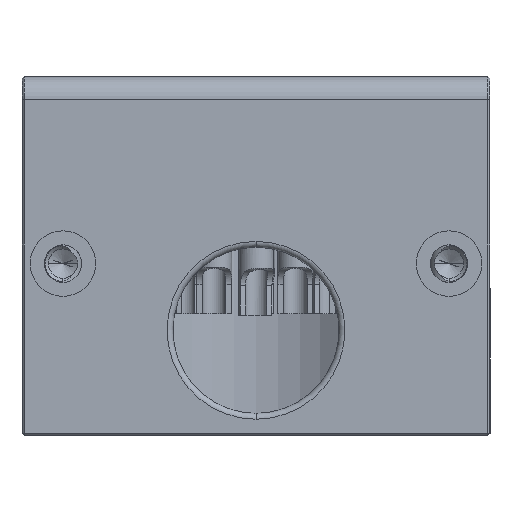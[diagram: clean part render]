
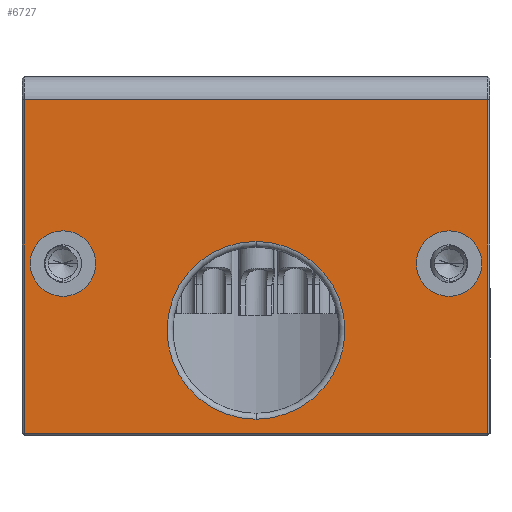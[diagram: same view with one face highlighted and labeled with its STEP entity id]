
A CAD part, front view. The second image highlights one B-rep face of the part: STEP entity #6727.
In plain terms, the highlighted planar face has unit normal (0, -1, 0).
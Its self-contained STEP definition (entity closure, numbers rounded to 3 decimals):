
#142 = VECTOR ( 'NONE', #6119, 1000. ) ;
#332 = CARTESIAN_POINT ( 'NONE',  ( 29.882, -22.127, -16.3 ) ) ;
#387 = CARTESIAN_POINT ( 'NONE',  ( 13.382, -22.127, -22. ) ) ;
#388 = DIRECTION ( 'NONE',  ( 0., 1., 0. ) ) ;
#394 = CIRCLE ( 'NONE', #2444, 2.8 ) ;
#399 = EDGE_LOOP ( 'NONE', ( #7267, #6296 ) ) ;
#403 = DIRECTION ( 'NONE',  ( 0., 0., 1. ) ) ;
#561 = PLANE ( 'NONE',  #4365 ) ;
#709 = FACE_OUTER_BOUND ( 'NONE', #2448, .T. ) ;
#727 = CARTESIAN_POINT ( 'NONE',  ( -6.418, -22.127, -30.8 ) ) ;
#738 = DIRECTION ( 'NONE',  ( 0., -1., 0. ) ) ;
#766 = DIRECTION ( 'NONE',  ( 1., 0., 0. ) ) ;
#845 = CARTESIAN_POINT ( 'NONE',  ( -3.118, -22.127, -13.5 ) ) ;
#1048 = AXIS2_PLACEMENT_3D ( 'NONE', #387, #388, #403 ) ;
#1348 = DIRECTION ( 'NONE',  ( 0., 0., -1. ) ) ;
#1844 = CARTESIAN_POINT ( 'NONE',  ( 29.882, -22.127, -19.1 ) ) ;
#2125 = AXIS2_PLACEMENT_3D ( 'NONE', #9798, #9810, #9826 ) ;
#2188 = ORIENTED_EDGE ( 'NONE', *, *, #6693, .T. ) ;
#2243 = VERTEX_POINT ( 'NONE', #845 ) ;
#2259 = VECTOR ( 'NONE', #5566, 1000. ) ;
#2444 = AXIS2_PLACEMENT_3D ( 'NONE', #8079, #7739, #9248 ) ;
#2448 = EDGE_LOOP ( 'NONE', ( #11595, #5131, #4684, #10563 ) ) ;
#2573 = LINE ( 'NONE', #5391, #2259 ) ;
#2663 = VECTOR ( 'NONE', #3962, 1000. ) ;
#2738 = FACE_BOUND ( 'NONE', #9061, .T. ) ;
#2802 = LINE ( 'NONE', #6259, #142 ) ;
#3197 = DIRECTION ( 'NONE',  ( 0., 1., 0. ) ) ;
#3243 = VERTEX_POINT ( 'NONE', #9236 ) ;
#3272 = CARTESIAN_POINT ( 'NONE',  ( -3.118, -22.127, -16.3 ) ) ;
#3326 = CARTESIAN_POINT ( 'NONE',  ( 13.382, -22.127, -14.4 ) ) ;
#3363 = CARTESIAN_POINT ( 'NONE',  ( 29.882, -22.127, -13.5 ) ) ;
#3690 = EDGE_CURVE ( 'NONE', #2243, #4925, #9005, .T. ) ;
#3962 = DIRECTION ( 'NONE',  ( 0., 0., -1. ) ) ;
#4088 = EDGE_LOOP ( 'NONE', ( #7550, #9944 ) ) ;
#4221 = EDGE_CURVE ( 'NONE', #8075, #3243, #4604, .T. ) ;
#4365 = AXIS2_PLACEMENT_3D ( 'NONE', #727, #738, #766 ) ;
#4444 = EDGE_CURVE ( 'NONE', #11777, #5824, #2802, .T. ) ;
#4604 = LINE ( 'NONE', #4853, #2663 ) ;
#4684 = ORIENTED_EDGE ( 'NONE', *, *, #9101, .F. ) ;
#4765 = EDGE_CURVE ( 'NONE', #6823, #11536, #9769, .T. ) ;
#4853 = CARTESIAN_POINT ( 'NONE',  ( -6.418, -22.127, -16.55 ) ) ;
#4925 = VERTEX_POINT ( 'NONE', #11977 ) ;
#5131 = ORIENTED_EDGE ( 'NONE', *, *, #4444, .T. ) ;
#5142 = CARTESIAN_POINT ( 'NONE',  ( 33.182, -22.127, -30.8 ) ) ;
#5207 = ORIENTED_EDGE ( 'NONE', *, *, #3690, .T. ) ;
#5307 = FACE_BOUND ( 'NONE', #399, .T. ) ;
#5391 = CARTESIAN_POINT ( 'NONE',  ( 13.382, -22.127, -2.3 ) ) ;
#5566 = DIRECTION ( 'NONE',  ( 1., 0., 0. ) ) ;
#5568 = LINE ( 'NONE', #8596, #9822 ) ;
#5597 = FACE_BOUND ( 'NONE', #4088, .T. ) ;
#5824 = VERTEX_POINT ( 'NONE', #9589 ) ;
#6119 = DIRECTION ( 'NONE',  ( 0., 0., 1. ) ) ;
#6194 = VERTEX_POINT ( 'NONE', #3326 ) ;
#6259 = CARTESIAN_POINT ( 'NONE',  ( 33.182, -22.127, -16.55 ) ) ;
#6296 = ORIENTED_EDGE ( 'NONE', *, *, #11064, .T. ) ;
#6511 = VERTEX_POINT ( 'NONE', #10486 ) ;
#6693 = EDGE_CURVE ( 'NONE', #4925, #2243, #394, .T. ) ;
#6727 = ADVANCED_FACE ( 'NONE', ( #709, #5307, #5597, #2738 ), #561, .T. ) ;
#6755 = AXIS2_PLACEMENT_3D ( 'NONE', #332, #9308, #10705 ) ;
#6823 = VERTEX_POINT ( 'NONE', #1844 ) ;
#7074 = AXIS2_PLACEMENT_3D ( 'NONE', #3272, #3197, #1348 ) ;
#7267 = ORIENTED_EDGE ( 'NONE', *, *, #9415, .T. ) ;
#7550 = ORIENTED_EDGE ( 'NONE', *, *, #4765, .T. ) ;
#7739 = DIRECTION ( 'NONE',  ( 0., 1., 0. ) ) ;
#7860 = CARTESIAN_POINT ( 'NONE',  ( -6.418, -22.127, -2.3 ) ) ;
#8075 = VERTEX_POINT ( 'NONE', #7860 ) ;
#8079 = CARTESIAN_POINT ( 'NONE',  ( -3.118, -22.127, -16.3 ) ) ;
#8596 = CARTESIAN_POINT ( 'NONE',  ( 13.382, -22.127, -30.8 ) ) ;
#8771 = DIRECTION ( 'NONE',  ( 1., 0., 0. ) ) ;
#9005 = CIRCLE ( 'NONE', #7074, 2.8 ) ;
#9040 = CIRCLE ( 'NONE', #2125, 2.8 ) ;
#9061 = EDGE_LOOP ( 'NONE', ( #2188, #5207 ) ) ;
#9101 = EDGE_CURVE ( 'NONE', #8075, #5824, #2573, .T. ) ;
#9236 = CARTESIAN_POINT ( 'NONE',  ( -6.418, -22.127, -30.8 ) ) ;
#9248 = DIRECTION ( 'NONE',  ( 0., 0., -1. ) ) ;
#9295 = CARTESIAN_POINT ( 'NONE',  ( 13.382, -22.127, -22. ) ) ;
#9306 = DIRECTION ( 'NONE',  ( 0., 1., 0. ) ) ;
#9308 = DIRECTION ( 'NONE',  ( 0., 1., 0. ) ) ;
#9327 = DIRECTION ( 'NONE',  ( 0., 0., 1. ) ) ;
#9365 = EDGE_CURVE ( 'NONE', #3243, #11777, #5568, .T. ) ;
#9415 = EDGE_CURVE ( 'NONE', #6194, #6511, #9564, .T. ) ;
#9451 = EDGE_CURVE ( 'NONE', #11536, #6823, #9040, .T. ) ;
#9564 = CIRCLE ( 'NONE', #11569, 7.6 ) ;
#9589 = CARTESIAN_POINT ( 'NONE',  ( 33.182, -22.127, -2.3 ) ) ;
#9769 = CIRCLE ( 'NONE', #6755, 2.8 ) ;
#9798 = CARTESIAN_POINT ( 'NONE',  ( 29.882, -22.127, -16.3 ) ) ;
#9810 = DIRECTION ( 'NONE',  ( 0., 1., 0. ) ) ;
#9822 = VECTOR ( 'NONE', #8771, 1000. ) ;
#9826 = DIRECTION ( 'NONE',  ( 0., 0., -1. ) ) ;
#9944 = ORIENTED_EDGE ( 'NONE', *, *, #9451, .T. ) ;
#10486 = CARTESIAN_POINT ( 'NONE',  ( 13.382, -22.127, -29.6 ) ) ;
#10563 = ORIENTED_EDGE ( 'NONE', *, *, #4221, .T. ) ;
#10705 = DIRECTION ( 'NONE',  ( 0., 0., -1. ) ) ;
#11064 = EDGE_CURVE ( 'NONE', #6511, #6194, #11806, .T. ) ;
#11536 = VERTEX_POINT ( 'NONE', #3363 ) ;
#11569 = AXIS2_PLACEMENT_3D ( 'NONE', #9295, #9306, #9327 ) ;
#11595 = ORIENTED_EDGE ( 'NONE', *, *, #9365, .T. ) ;
#11777 = VERTEX_POINT ( 'NONE', #5142 ) ;
#11806 = CIRCLE ( 'NONE', #1048, 7.6 ) ;
#11977 = CARTESIAN_POINT ( 'NONE',  ( -3.118, -22.127, -19.1 ) ) ;
